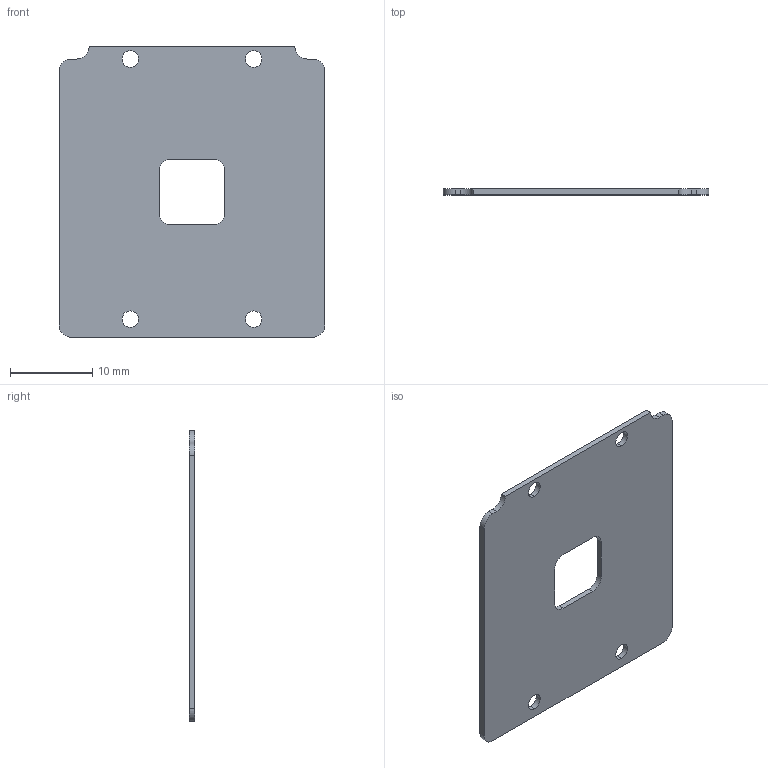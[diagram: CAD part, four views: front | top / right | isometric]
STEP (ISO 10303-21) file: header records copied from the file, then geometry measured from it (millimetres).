
FILE_DESCRIPTION (( 'STEP AP214' ), '1' );
FILE_NAME ('LSQF-XX-033-1-POLARIZER.STEP', '2021-11-05T02:04:55', ( '' ), ( '' ), 'SwSTEP 2.0', 'SolidWorks 2021', '' );
FILE_SCHEMA (( 'AUTOMOTIVE_DESIGN' ));
Length unit declared in the file: millimetre
Products named in the file (1): LSQF-XX-033-1-POLARIZER
Bounding box: 32.3 x 0.7 x 35.3 mm (x, y, z)
Volume: 737.5 mm3; surface area: 2237.4 mm2
Topology: 1 solids, 1 shells, 30 faces, 84 edges, 56 vertices
Faces by surface type: cylinder 18, plane 12
Entity records: 1038 total; most frequent: DIRECTION 182, CARTESIAN_POINT 171, ORIENTED_EDGE 168, EDGE_CURVE 84, AXIS2_PLACEMENT_3D 67, VERTEX_POINT 56, VECTOR 48, LINE 48
